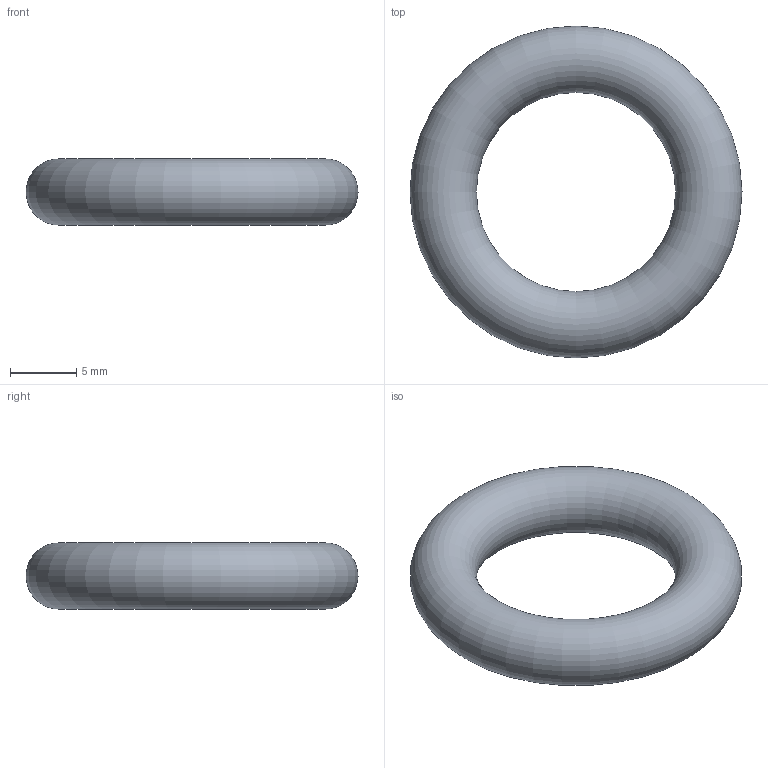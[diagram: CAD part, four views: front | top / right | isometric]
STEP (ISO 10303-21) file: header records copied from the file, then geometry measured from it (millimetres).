
FILE_DESCRIPTION( ( 'Unknown' ), '1' );
FILE_NAME( 'X:/Daten ( aktueller Bestand )/Projekte und Zeichnungen/Solid Edge/4 Dichtungsbauteile und Zubehör/1281.stp', 'Unknown', ( 'Unknown' ), ( 'Unknown' ), 'XStep 1.0', 'Unknown', ' ' );
FILE_SCHEMA( ( 'automotive_design' ) );
Length unit declared in the file: millimetre
Products named in the file (1): 1
Bounding box: 25 x 25 x 5 mm (x, y, z)
Volume: 1233.7 mm3; surface area: 987 mm2
Topology: 1 solids, 1 shells, 1 faces, 2 edges, 1 vertices
Faces by surface type: torus 1
Entity records: 38 total; most frequent: DIRECTION 4, AXIS2_PLACEMENT_3D 2, DIMENSIONAL_EXPONENTS 2, CARTESIAN_POINT 2, MECHANICAL_DESIGN_GEOMETRIC_PRESENTATION_REPRESENTATION 1, PRODUCT_DEFINITION_CONTEXT 1, APPLICATION_PROTOCOL_DEFINITION 1, PRODUCT_CATEGORY_RELATIONSHIP 1
